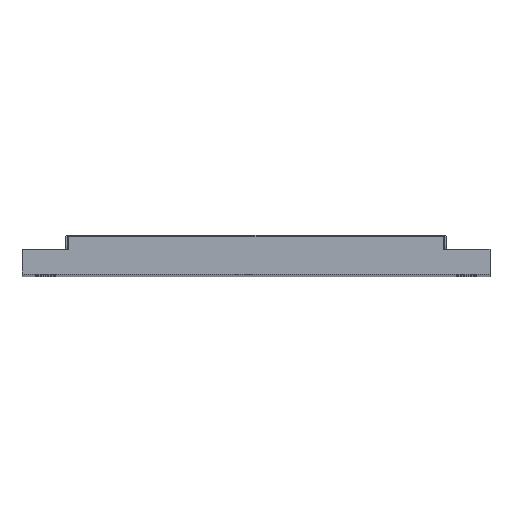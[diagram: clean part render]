
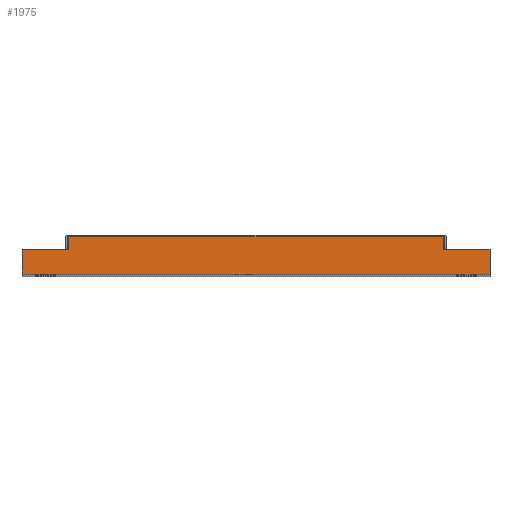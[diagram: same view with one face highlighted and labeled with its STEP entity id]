
A CAD part, top view. The second image highlights one B-rep face of the part: STEP entity #1975.
In plain terms, the highlighted planar face has unit normal (0, 0, 1).
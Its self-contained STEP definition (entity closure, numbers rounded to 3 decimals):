
#18 = DIRECTION ( 'NONE',  ( 0., 1., 0. ) ) ;
#19 = VECTOR ( 'NONE', #18, 1000. ) ;
#39 = LINE ( 'NONE', #58, #19 ) ;
#48 = DIRECTION ( 'NONE',  ( 1., 0., 0. ) ) ;
#49 = DIRECTION ( 'NONE',  ( 0., 0., 1. ) ) ;
#50 = CARTESIAN_POINT ( 'NONE',  ( 0., 0., 0. ) ) ;
#51 = AXIS2_PLACEMENT_3D ( 'NONE', #50, #49, #48 ) ;
#52 = PLANE ( 'NONE',  #51 ) ;
#53 = FACE_OUTER_BOUND ( 'NONE', #1976, .T. ) ;
#58 = CARTESIAN_POINT ( 'NONE',  ( 150., 0., 0. ) ) ;
#96 = DIRECTION ( 'NONE',  ( -1., 0., 0. ) ) ;
#97 = VECTOR ( 'NONE', #96, 1000. ) ;
#98 = CARTESIAN_POINT ( 'NONE',  ( 150., 8., 0. ) ) ;
#99 = LINE ( 'NONE', #98, #97 ) ;
#105 = CARTESIAN_POINT ( 'NONE',  ( 150., 8., 0. ) ) ;
#423 = CARTESIAN_POINT ( 'NONE',  ( 15., 8., 0. ) ) ;
#1561 = VERTEX_POINT ( 'NONE', #2782 ) ;
#1616 = EDGE_CURVE ( 'NONE', #1617, #1561, #2987, .T. ) ;
#1617 = VERTEX_POINT ( 'NONE', #2983 ) ;
#1621 = EDGE_CURVE ( 'NONE', #1622, #2157, #2982, .T. ) ;
#1622 = VERTEX_POINT ( 'NONE', #2978 ) ;
#1720 = EDGE_CURVE ( 'NONE', #2157, #1778, #3267, .T. ) ;
#1727 = EDGE_CURVE ( 'NONE', #1561, #1622, #3257, .T. ) ;
#1729 = VERTEX_POINT ( 'NONE', #3253 ) ;
#1777 = EDGE_CURVE ( 'NONE', #1778, #1792, #3213, .T. ) ;
#1778 = VERTEX_POINT ( 'NONE', #3416 ) ;
#1791 = EDGE_CURVE ( 'NONE', #1792, #1729, #3387, .T. ) ;
#1792 = VERTEX_POINT ( 'NONE', #3383 ) ;
#1884 = EDGE_CURVE ( 'NONE', #1729, #1941, #39, .T. ) ;
#1895 = ORIENTED_EDGE ( 'NONE', *, *, #1621, .T. ) ;
#1896 = ORIENTED_EDGE ( 'NONE', *, *, #1720, .T. ) ;
#1931 = EDGE_CURVE ( 'NONE', #1941, #1617, #99, .T. ) ;
#1941 = VERTEX_POINT ( 'NONE', #105 ) ;
#1946 = ORIENTED_EDGE ( 'NONE', *, *, #1884, .T. ) ;
#1947 = ORIENTED_EDGE ( 'NONE', *, *, #1931, .T. ) ;
#1975 = ADVANCED_FACE ( 'NONE', ( #53 ), #52, .T. ) ;
#1976 = EDGE_LOOP ( 'NONE', ( #1977, #1978, #1946, #1947, #2147, #2148, #1895, #1896 ) ) ;
#1977 = ORIENTED_EDGE ( 'NONE', *, *, #1777, .T. ) ;
#1978 = ORIENTED_EDGE ( 'NONE', *, *, #1791, .T. ) ;
#2147 = ORIENTED_EDGE ( 'NONE', *, *, #1616, .T. ) ;
#2148 = ORIENTED_EDGE ( 'NONE', *, *, #1727, .T. ) ;
#2157 = VERTEX_POINT ( 'NONE', #423 ) ;
#2782 = CARTESIAN_POINT ( 'NONE',  ( 135., 12., 0. ) ) ;
#2978 = CARTESIAN_POINT ( 'NONE',  ( 15., 12., 0. ) ) ;
#2979 = DIRECTION ( 'NONE',  ( 0., -1., 0. ) ) ;
#2980 = VECTOR ( 'NONE', #2979, 1000. ) ;
#2981 = CARTESIAN_POINT ( 'NONE',  ( 15., 12., 0. ) ) ;
#2982 = LINE ( 'NONE', #2981, #2980 ) ;
#2983 = CARTESIAN_POINT ( 'NONE',  ( 135., 8., 0. ) ) ;
#2984 = DIRECTION ( 'NONE',  ( 0., 1., 0. ) ) ;
#2985 = VECTOR ( 'NONE', #2984, 1000. ) ;
#2986 = CARTESIAN_POINT ( 'NONE',  ( 135., 8., 0. ) ) ;
#2987 = LINE ( 'NONE', #2986, #2985 ) ;
#3211 = VECTOR ( 'NONE', #3417, 1000. ) ;
#3212 = CARTESIAN_POINT ( 'NONE',  ( 0., 8., 0. ) ) ;
#3213 = LINE ( 'NONE', #3212, #3211 ) ;
#3253 = CARTESIAN_POINT ( 'NONE',  ( 150., 0., 0. ) ) ;
#3254 = DIRECTION ( 'NONE',  ( -1., 0., 0. ) ) ;
#3255 = VECTOR ( 'NONE', #3254, 1000. ) ;
#3256 = CARTESIAN_POINT ( 'NONE',  ( 135., 12., 0. ) ) ;
#3257 = LINE ( 'NONE', #3256, #3255 ) ;
#3264 = DIRECTION ( 'NONE',  ( -1., 0., 0. ) ) ;
#3265 = VECTOR ( 'NONE', #3264, 1000. ) ;
#3266 = CARTESIAN_POINT ( 'NONE',  ( 15., 8., 0. ) ) ;
#3267 = LINE ( 'NONE', #3266, #3265 ) ;
#3383 = CARTESIAN_POINT ( 'NONE',  ( 0., 0., 0. ) ) ;
#3384 = DIRECTION ( 'NONE',  ( 1., 0., 0. ) ) ;
#3385 = VECTOR ( 'NONE', #3384, 1000. ) ;
#3386 = CARTESIAN_POINT ( 'NONE',  ( 0., 0., 0. ) ) ;
#3387 = LINE ( 'NONE', #3386, #3385 ) ;
#3416 = CARTESIAN_POINT ( 'NONE',  ( 0., 8., 0. ) ) ;
#3417 = DIRECTION ( 'NONE',  ( 0., -1., 0. ) ) ;
